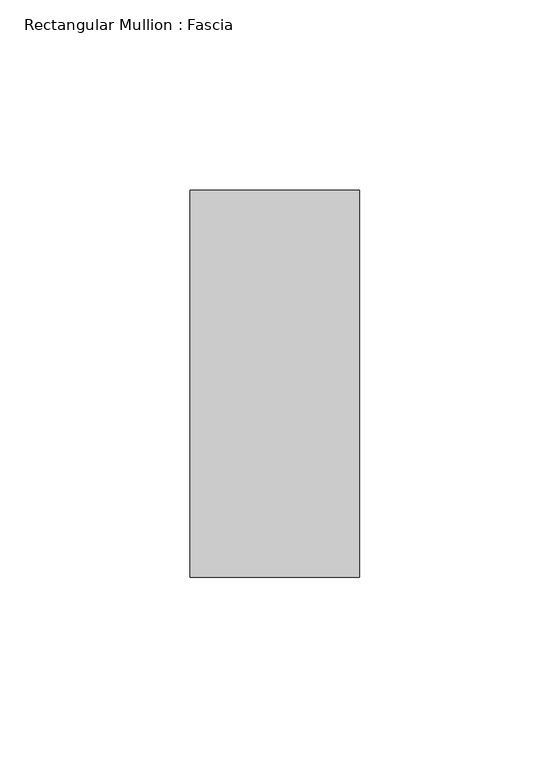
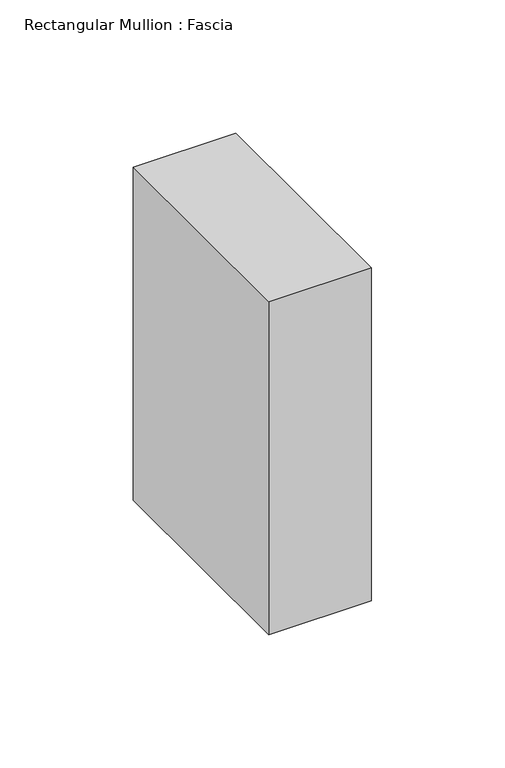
"""IFC4 building model written with IfcOpenShell, lengths in millimetres: member geometry, Rectangular Mullion : Fascia."""

from ifc_helpers import new_model, si_unit, frame, origin, place, context, project, spatial, polyline, outline, extrude, source, transform, mapped, element, save


def rectangular_mullion_fascia_2a1c65a7(model_context):
    return source(origin(), model_context, "Body", "SweptSolid", [
        extrude(outline(polyline([(0.0, 114.3), (0.0, 12.7), (-44.45, 12.7), (-44.45, 114.3), (0.0, 114.3)])), frame((0.0, 0.0, -152.4), z_axis=(0.0, 0.0, 1.0), x_axis=(1.0, 0.0, 0.0)), (0.0, 0.0, 1.0), 152.4),
    ])


if __name__ == "__main__":
    model = new_model("IFC4")
    model_context = context("Model", 3, world=origin())
    ifc_project = project(units=[si_unit("LENGTHUNIT", "METRE", prefix="MILLI")], contexts=[model_context])
    site = spatial("IfcSite", under=ifc_project)
    building = spatial("IfcBuilding", under=site)
    placement = place(None, origin())
    rectangular_mullion_fascia_shape = rectangular_mullion_fascia_2a1c65a7(model_context)
    element("IfcMember", 1, ObjectType="Rectangular Mullion : Fascia", at=placement, inside=building, context=model_context, shape_type="MappedRepresentation", body=[
        mapped(rectangular_mullion_fascia_shape, transform((0.0, 0.0, 0.0), x_axis=(1.0, 0.0, 0.0), y_axis=(0.0, 1.0, 0.0), z_axis=(0.0, 0.0, 1.0))),
    ])
    save(model, "model.ifc")
